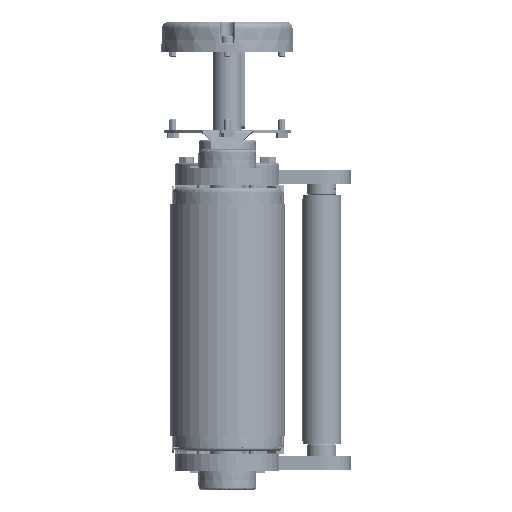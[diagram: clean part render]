
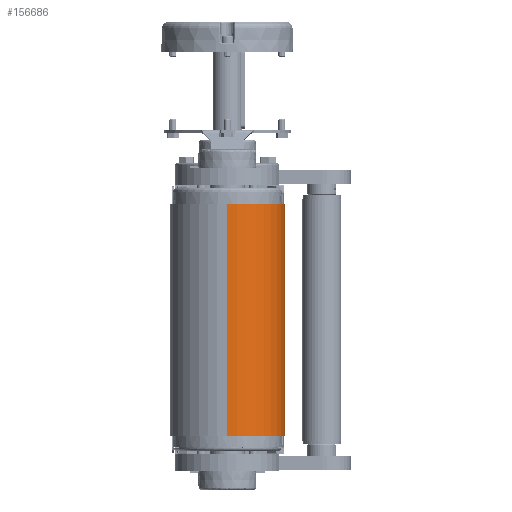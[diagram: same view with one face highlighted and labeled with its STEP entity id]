
A CAD part, left-side view. The second image highlights one B-rep face of the part: STEP entity #156686.
In plain terms, the highlighted cylindrical face has radius 49.5 mm (diameter 99 mm), a partial arc.
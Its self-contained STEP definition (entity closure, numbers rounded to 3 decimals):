
#3730 = VERTEX_POINT ( 'NONE', #37254 ) ;
#4486 = CARTESIAN_POINT ( 'NONE',  ( -1799.5, 0., 100. ) ) ;
#10065 = AXIS2_PLACEMENT_3D ( 'NONE', #122457, #58506, #60989 ) ;
#13872 = VECTOR ( 'NONE', #95369, 1000. ) ;
#23878 = DIRECTION ( 'NONE',  ( 0., 0., 1. ) ) ;
#26240 = CYLINDRICAL_SURFACE ( 'NONE', #100825, 49.5 ) ;
#30530 = LINE ( 'NONE', #4486, #13872 ) ;
#31133 = LINE ( 'NONE', #44622, #153374 ) ;
#36486 = CARTESIAN_POINT ( 'NONE',  ( -1750., 0., 100. ) ) ;
#37254 = CARTESIAN_POINT ( 'NONE',  ( -1799.5, 0., 100. ) ) ;
#39709 = DIRECTION ( 'NONE',  ( 0., 0., -1. ) ) ;
#44622 = CARTESIAN_POINT ( 'NONE',  ( -1750., -49.5, 100. ) ) ;
#48871 = EDGE_CURVE ( 'NONE', #78850, #79326, #152331, .T. ) ;
#55336 = CARTESIAN_POINT ( 'NONE',  ( -1750., -49.5, -100. ) ) ;
#55372 = EDGE_CURVE ( 'NONE', #119638, #79326, #31133, .T. ) ;
#56743 = EDGE_CURVE ( 'NONE', #3730, #78850, #30530, .T. ) ;
#58506 = DIRECTION ( 'NONE',  ( 0., 0., 1. ) ) ;
#59342 = DIRECTION ( 'NONE',  ( 1., 0., 0. ) ) ;
#60989 = DIRECTION ( 'NONE',  ( 1., 0., 0. ) ) ;
#68334 = FACE_OUTER_BOUND ( 'NONE', #136318, .T. ) ;
#68582 = ORIENTED_EDGE ( 'NONE', *, *, #117311, .F. ) ;
#70011 = DIRECTION ( 'NONE',  ( -1., 0., 0. ) ) ;
#77632 = CARTESIAN_POINT ( 'NONE',  ( -1750., 0., 100. ) ) ;
#78850 = VERTEX_POINT ( 'NONE', #95928 ) ;
#79326 = VERTEX_POINT ( 'NONE', #55336 ) ;
#95369 = DIRECTION ( 'NONE',  ( 0., 0., -1. ) ) ;
#95928 = CARTESIAN_POINT ( 'NONE',  ( -1799.5, 0., -100. ) ) ;
#97434 = ORIENTED_EDGE ( 'NONE', *, *, #55372, .F. ) ;
#100825 = AXIS2_PLACEMENT_3D ( 'NONE', #77632, #39709, #70011 ) ;
#106934 = DIRECTION ( 'NONE',  ( 0., 0., -1. ) ) ;
#115229 = CIRCLE ( 'NONE', #136791, 49.5 ) ;
#117311 = EDGE_CURVE ( 'NONE', #3730, #119638, #115229, .T. ) ;
#119638 = VERTEX_POINT ( 'NONE', #147331 ) ;
#122457 = CARTESIAN_POINT ( 'NONE',  ( -1750., 0., -100. ) ) ;
#126064 = ORIENTED_EDGE ( 'NONE', *, *, #48871, .T. ) ;
#129378 = ORIENTED_EDGE ( 'NONE', *, *, #56743, .T. ) ;
#136318 = EDGE_LOOP ( 'NONE', ( #68582, #129378, #126064, #97434 ) ) ;
#136791 = AXIS2_PLACEMENT_3D ( 'NONE', #36486, #23878, #59342 ) ;
#147331 = CARTESIAN_POINT ( 'NONE',  ( -1750., -49.5, 100. ) ) ;
#152331 = CIRCLE ( 'NONE', #10065, 49.5 ) ;
#153374 = VECTOR ( 'NONE', #106934, 1000. ) ;
#156686 = ADVANCED_FACE ( 'NONE', ( #68334 ), #26240, .T. ) ;
